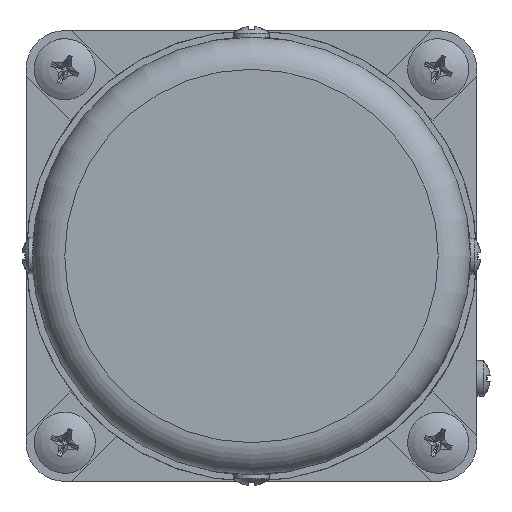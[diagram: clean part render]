
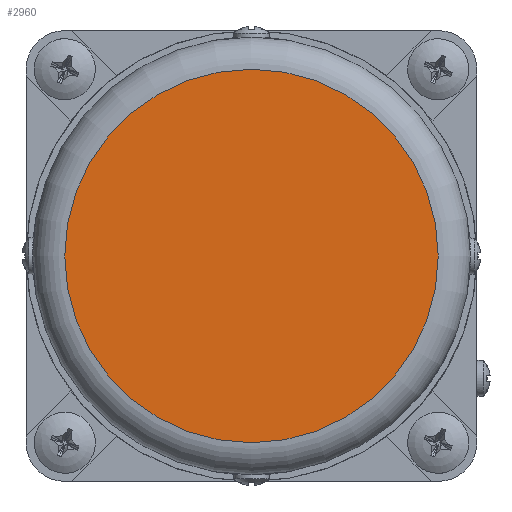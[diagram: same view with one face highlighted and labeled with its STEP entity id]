
A CAD part, left-side view. The second image highlights one B-rep face of the part: STEP entity #2960.
In plain terms, the highlighted planar face has unit normal (-1, 0, 0).
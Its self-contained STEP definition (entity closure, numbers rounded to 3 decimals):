
#1903=PLANE('',#8909);
#2960=ADVANCED_FACE('',(#3422),#1903,.T.);
#3422=FACE_OUTER_BOUND('',#3962,.T.);
#3962=EDGE_LOOP('',(#5529));
#5529=ORIENTED_EDGE('',*,*,#7544,.T.);
#6641=VERTEX_POINT('',#14246);
#7544=EDGE_CURVE('',#6641,#6641,#8101,.T.);
#8101=CIRCLE('',#8908,29.);
#8908=AXIS2_PLACEMENT_3D('',#14245,#10258,#10259);
#8909=AXIS2_PLACEMENT_3D('',#14247,#10260,#10261);
#10258=DIRECTION('',(-1.,0.,0.));
#10259=DIRECTION('',(0.,0.,-1.));
#10260=DIRECTION('',(-1.,0.,0.));
#10261=DIRECTION('',(0.,0.,-1.));
#14245=CARTESIAN_POINT('',(-123.,0.,0.));
#14246=CARTESIAN_POINT('',(-123.,0.,-29.));
#14247=CARTESIAN_POINT('',(-123.,0.,0.));
